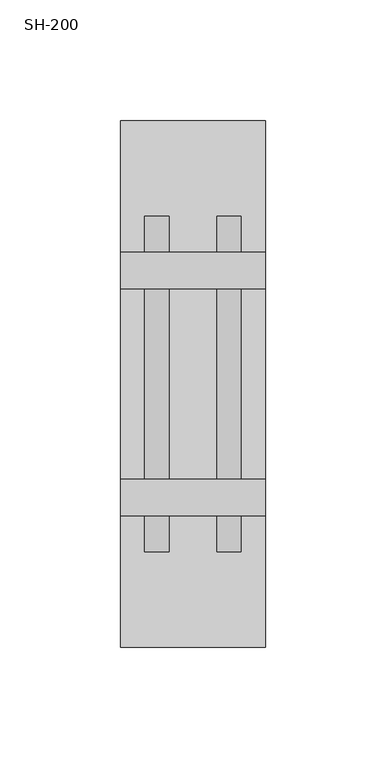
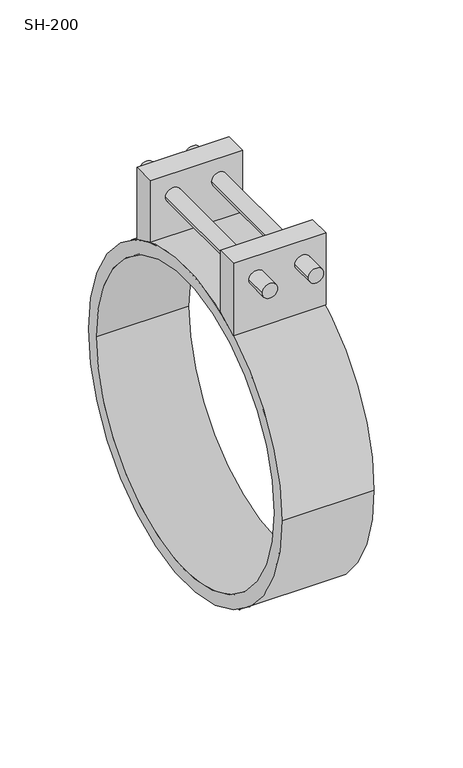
"""IFC4 building model written with IfcOpenShell, lengths in millimetres: duct fitting geometry, СВ_Хомут_Круглый_DN100-315_SH : SH-200."""

from ifc_helpers import new_model, si_unit, point, frame, origin, origin_2d, place, context, project, spatial, polyline, circle_curve, trimmed, segment, composite_curve, outline, extrude, source, transform, mapped, element, save
from ifc_brep_helpers import plane_surface, cylinder_surface, revolved_surface, advanced_brep


def sh_200_04f6e43c(model_context):
    return source(origin(), model_context, "Body", "SolidModel", [
        advanced_brep(
        [(30.0, 54.5, 144.0), (30.0, 39.5, 144.0), (30.0, 39.5, 101.5910921), (30.0, 54.5, 94.396769), (30.0, -39.5, 144.0), (30.0, -54.5, 144.0), (30.0, -54.5, 94.396769), (30.0, -39.5, 101.5910921), (-30.0, 39.5, 144.0), (-30.0, 54.5, 144.0), (-30.0, 54.5, 94.396769), (-30.0, 39.5, 101.5910921), (-30.0, -54.5, 144.0), (-30.0, -39.5, 144.0), (-30.0, -39.5, 101.5910921), (-30.0, -54.5, 94.396769), (-20.0, 54.5, 129.0), (-10.0, 54.5, 129.0), (10.0, 54.5, 129.0), (20.0, 54.5, 129.0), (-10.0, 39.5, 129.0), (-20.0, 39.5, 129.0), (20.0, 39.5, 129.0), (10.0, 39.5, 129.0), (-20.0, -39.5, 129.0), (-10.0, -39.5, 129.0), (10.0, -39.5, 129.0), (20.0, -39.5, 129.0), (-10.0, -54.5, 129.0), (-20.0, -54.5, 129.0), (20.0, -54.5, 129.0), (10.0, -54.5, 129.0), (-20.0, -69.5, 129.0), (-10.0, -69.5, 129.0), (10.0, -69.5, 129.0), (20.0, -69.5, 129.0), (-20.0, 69.5, 129.0), (-10.0, 69.5, 129.0), (10.0, 69.5, 129.0), (20.0, 69.5, 129.0)],
        [
            (0, 1),
            (1, 2),
            (2, 3, circle_curve(frame((30.0, 0.0, 0.0), z_axis=(-1.0, 0.0, 0.0), x_axis=(0.0, 1.0, 0.0)), 109.0)),
            (3, 0),
            (4, 5),
            (5, 6),
            (6, 7, circle_curve(frame((30.0, 0.0, 0.0), z_axis=(-1.0, 0.0, 0.0), x_axis=(0.0, 1.0, 0.0)), 109.0)),
            (7, 4),
            (8, 9),
            (9, 10),
            (10, 11, circle_curve(frame((-30.0, 0.0, 0.0), z_axis=(1.0, 0.0, 0.0), x_axis=(0.0, 1.0, 0.0)), 109.0)),
            (11, 8),
            (12, 13),
            (13, 14),
            (14, 15, circle_curve(frame((-30.0, 0.0, 0.0), z_axis=(1.0, 0.0, 0.0), x_axis=(0.0, 1.0, 0.0)), 109.0)),
            (15, 12),
            (9, 0),
            (3, 10),
            (16, 17, circle_curve(frame((-15.0, 54.5, 129.0), z_axis=(0.0, -1.0, 0.0), x_axis=(1.0, 0.0, 0.0)), 5.0)),
            (17, 16, circle_curve(frame((-15.0, 54.5, 129.0), z_axis=(0.0, -1.0, 0.0), x_axis=(1.0, 0.0, 0.0)), 5.0)),
            (18, 19, circle_curve(frame((15.0, 54.5, 129.0), z_axis=(0.0, -1.0, 0.0), x_axis=(1.0, 0.0, 0.0)), 5.0)),
            (19, 18, circle_curve(frame((15.0, 54.5, 129.0), z_axis=(0.0, -1.0, 0.0), x_axis=(1.0, 0.0, 0.0)), 5.0)),
            (8, 1),
            (11, 2),
            (20, 21, circle_curve(frame((-15.0, 39.5, 129.0), z_axis=(0.0, 1.0, 0.0), x_axis=(1.0, 0.0, 0.0)), 5.0)),
            (21, 20, circle_curve(frame((-15.0, 39.5, 129.0), z_axis=(0.0, 1.0, 0.0), x_axis=(1.0, 0.0, 0.0)), 5.0)),
            (22, 23, circle_curve(frame((15.0, 39.5, 129.0), z_axis=(0.0, 1.0, 0.0), x_axis=(1.0, 0.0, 0.0)), 5.0)),
            (23, 22, circle_curve(frame((15.0, 39.5, 129.0), z_axis=(0.0, 1.0, 0.0), x_axis=(1.0, 0.0, 0.0)), 5.0)),
            (13, 4),
            (7, 14),
            (24, 25, circle_curve(frame((-15.0, -39.5, 129.0), z_axis=(0.0, -1.0, 0.0), x_axis=(1.0, 0.0, 0.0)), 5.0)),
            (25, 24, circle_curve(frame((-15.0, -39.5, 129.0), z_axis=(0.0, -1.0, 0.0), x_axis=(1.0, 0.0, 0.0)), 5.0)),
            (26, 27, circle_curve(frame((15.0, -39.5, 129.0), z_axis=(0.0, -1.0, 0.0), x_axis=(1.0, 0.0, 0.0)), 5.0)),
            (27, 26, circle_curve(frame((15.0, -39.5, 129.0), z_axis=(0.0, -1.0, 0.0), x_axis=(1.0, 0.0, 0.0)), 5.0)),
            (12, 5),
            (15, 6),
            (28, 29, circle_curve(frame((-15.0, -54.5, 129.0), z_axis=(0.0, 1.0, 0.0), x_axis=(1.0, 0.0, 0.0)), 5.0)),
            (29, 28, circle_curve(frame((-15.0, -54.5, 129.0), z_axis=(0.0, 1.0, 0.0), x_axis=(1.0, 0.0, 0.0)), 5.0)),
            (30, 31, circle_curve(frame((15.0, -54.5, 129.0), z_axis=(0.0, 1.0, 0.0), x_axis=(1.0, 0.0, 0.0)), 5.0)),
            (31, 30, circle_curve(frame((15.0, -54.5, 129.0), z_axis=(0.0, 1.0, 0.0), x_axis=(1.0, 0.0, 0.0)), 5.0)),
            (32, 33, circle_curve(frame((-15.0, -69.5, 129.0), z_axis=(0.0, -1.0, 0.0), x_axis=(1.0, 0.0, 0.0)), 5.0)),
            (33, 32, circle_curve(frame((-15.0, -69.5, 129.0), z_axis=(0.0, -1.0, 0.0), x_axis=(1.0, 0.0, 0.0)), 5.0)),
            (34, 35, circle_curve(frame((15.0, -69.5, 129.0), z_axis=(0.0, -1.0, 0.0), x_axis=(1.0, 0.0, 0.0)), 5.0)),
            (35, 34, circle_curve(frame((15.0, -69.5, 129.0), z_axis=(0.0, -1.0, 0.0), x_axis=(1.0, 0.0, 0.0)), 5.0)),
            (36, 37, circle_curve(frame((-15.0, 69.5, 129.0), z_axis=(0.0, 1.0, 0.0), x_axis=(1.0, 0.0, 0.0)), 5.0)),
            (37, 36, circle_curve(frame((-15.0, 69.5, 129.0), z_axis=(0.0, 1.0, 0.0), x_axis=(1.0, 0.0, 0.0)), 5.0)),
            (38, 39, circle_curve(frame((15.0, 69.5, 129.0), z_axis=(0.0, 1.0, 0.0), x_axis=(1.0, 0.0, 0.0)), 5.0)),
            (39, 38, circle_curve(frame((15.0, 69.5, 129.0), z_axis=(0.0, 1.0, 0.0), x_axis=(1.0, 0.0, 0.0)), 5.0)),
            (32, 29),
            (28, 33),
            (37, 17),
            (16, 36),
            (24, 21),
            (20, 25),
            (34, 31),
            (30, 35),
            (39, 19),
            (18, 38),
            (26, 23),
            (22, 27),
        ],
        [
            plane_surface(frame((30.0, 54.5, 144.0), z_axis=(1.0, 0.0, 0.0), x_axis=(0.0, 0.0, 1.0))),
            plane_surface(frame((-30.0, 54.5, 144.0), z_axis=(-1.0, 0.0, 0.0), x_axis=(0.0, 0.0, -1.0))),
            plane_surface(frame((30.0, 54.5, 0.0), z_axis=(0.0, 1.0, 0.0), x_axis=(-1.0, 0.0, 0.0))),
            plane_surface(frame((30.0, 54.5, 144.0), z_axis=(0.0, 0.0, 1.0), x_axis=(-1.0, 0.0, 0.0))),
            plane_surface(frame((30.0, 39.5, 144.0), z_axis=(0.0, -1.0, 0.0), x_axis=(-1.0, 0.0, 0.0))),
            plane_surface(frame((30.0, -39.5, 0.0), z_axis=(0.0, 1.0, 0.0), x_axis=(-1.0, 0.0, 0.0))),
            plane_surface(frame((30.0, -39.5, 144.0), z_axis=(0.0, 0.0, 1.0), x_axis=(-1.0, 0.0, 0.0))),
            plane_surface(frame((30.0, -54.5, 144.0), z_axis=(0.0, -1.0, 0.0), x_axis=(-1.0, 0.0, 0.0))),
            revolved_surface(polyline([(30.0, 109.0, 0.0), (-30.0, 109.0, 0.0)]), (-30.0, 0.0, 0.0), (1.0, 0.0, 0.0)),
            plane_surface(frame((-10.0, -69.5, 129.0), z_axis=(0.0, -1.0, 0.0), x_axis=(0.0, 0.0, 1.0))),
            plane_surface(frame((-10.0, 69.5, 129.0), z_axis=(0.0, 1.0, 0.0), x_axis=(0.0, 0.0, -1.0))),
            cylinder_surface(frame((-15.0, 69.5, 129.0), z_axis=(0.0, -1.0, 0.0), x_axis=(1.0, 0.0, 0.0)), 5.0),
            cylinder_surface(frame((15.0, 0.0, 129.0), z_axis=(0.0, -1.0, 0.0), x_axis=(1.0, 0.0, 0.0)), 5.0),
        ],
        [
            (0, [[1, 2, 3, 4]]),
            (0, [[5, 6, 7, 8]]),
            (1, [[9, 10, 11, 12]]),
            (1, [[13, 14, 15, 16]]),
            (2, [[17, -4, 18, -10], [19, 20], [21, 22]]),
            (3, [[-1, -17, -9, 23]]),
            (4, [[-23, -12, 24, -2], [25, 26], [27, 28]]),
            (5, [[29, -8, 30, -14], [31, 32], [33, 34]]),
            (6, [[-5, -29, -13, 35]]),
            (7, [[-35, -16, 36, -6], [37, 38], [39, 40]]),
            (8, [[-3, -24, -11, -18]]),
            (8, [[-7, -36, -15, -30]]),
            (9, [[41, 42]]),
            (9, [[43, 44]]),
            (10, [[45, 46]]),
            (10, [[47, 48]]),
            (11, [[-41, 49, -37, 50]]),
            (11, [[-46, 51, -19, 52]]),
            (11, [[53, -25, 54, -31]]),
            (11, [[-42, -50, -38, -49]]),
            (11, [[-45, -52, -20, -51]]),
            (11, [[-53, -32, -54, -26]]),
            (12, [[-43, 55, -39, 56]]),
            (12, [[-48, 57, -21, 58]]),
            (12, [[59, -27, 60, -33]]),
            (12, [[-44, -56, -40, -55]]),
            (12, [[-47, -58, -22, -57]]),
            (12, [[-59, -34, -60, -28]]),
        ],
    ),
        extrude(outline(composite_curve([segment(trimmed(circle_curve(origin_2d(), 109.0), [point((-109.0, 0.0))], [point((109.0, 0.0))], False, "CARTESIAN"), True, "CONTINUOUS"), segment(trimmed(circle_curve(origin_2d(), 109.0), [point((109.0, 0.0))], [point((-109.0, 0.0))], False, "CARTESIAN"), True, "CONTINUOUS")], self_intersect=False), holes=[composite_curve([segment(trimmed(circle_curve(origin_2d(), 100.0), [point((-100.0, 0.0))], [point((100.0, 0.0))], True, "CARTESIAN"), True, "CONTINUOUS"), segment(trimmed(circle_curve(origin_2d(), 100.0), [point((100.0, 0.0))], [point((-100.0, 0.0))], True, "CARTESIAN"), True, "CONTINUOUS")], self_intersect=False)]), frame((-30.0, 0.0, 0.0), z_axis=(1.0, 0.0, 0.0), x_axis=(0.0, 1.0, 0.0)), (0.0, 0.0, 1.0), 60.0),
    ])


if __name__ == "__main__":
    model = new_model("IFC4")
    model_context = context("Model", 3, world=origin())
    ifc_project = project(units=[si_unit("LENGTHUNIT", "METRE", prefix="MILLI")], contexts=[model_context])
    site = spatial("IfcSite", under=ifc_project)
    building = spatial("IfcBuilding", under=site)
    placement = place(None, origin())
    sh_200_shape = sh_200_04f6e43c(model_context)
    element("IfcDuctFitting", 1, ObjectType="СВ_Хомут_Круглый_DN100-315_SH : SH-200", at=placement, inside=building, context=model_context, shape_type="MappedRepresentation", body=[
        mapped(sh_200_shape, transform((0.0, 0.0, 0.0), x_axis=(1.0, 0.0, 0.0), y_axis=(0.0, 1.0, 0.0), z_axis=(0.0, 0.0, 1.0))),
    ])
    save(model, "model.ifc")
